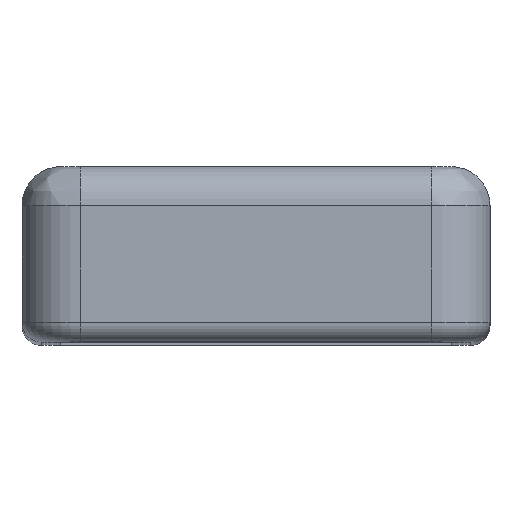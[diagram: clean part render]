
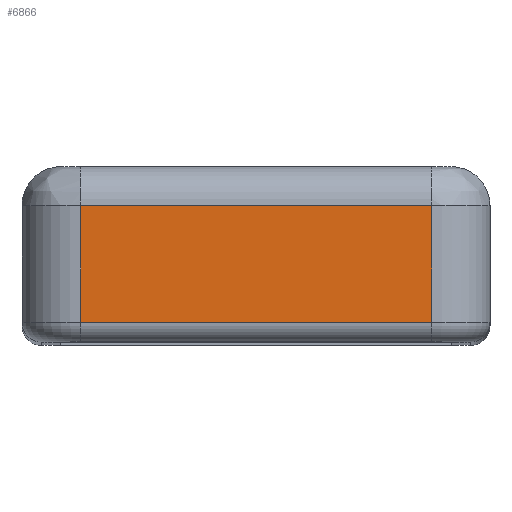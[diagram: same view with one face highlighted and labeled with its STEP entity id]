
A CAD part, top view. The second image highlights one B-rep face of the part: STEP entity #6866.
In plain terms, the highlighted planar face has unit normal (0, 0, 1).
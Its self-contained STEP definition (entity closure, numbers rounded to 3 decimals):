
#290=PLANE('',#7399);
#483=FACE_OUTER_BOUND('',#930,.T.);
#930=EDGE_LOOP('',(#4754,#4755,#4756,#4757));
#1432=LINE('',#10657,#2047);
#1435=LINE('',#10714,#2050);
#1438=LINE('',#10718,#2053);
#1452=LINE('',#10765,#2067);
#2047=VECTOR('',#8316,10.);
#2050=VECTOR('',#8359,10.);
#2053=VECTOR('',#8364,10.);
#2067=VECTOR('',#8410,10.);
#2946=VERTEX_POINT('',#10641);
#2948=VERTEX_POINT('',#10647);
#2956=VERTEX_POINT('',#10684);
#2966=VERTEX_POINT('',#10708);
#3593=EDGE_CURVE('',#2948,#2946,#1432,.T.);
#3612=EDGE_CURVE('',#2956,#2966,#1435,.T.);
#3615=EDGE_CURVE('',#2966,#2948,#1438,.T.);
#3637=EDGE_CURVE('',#2946,#2956,#1452,.T.);
#4754=ORIENTED_EDGE('',*,*,#3612,.F.);
#4755=ORIENTED_EDGE('',*,*,#3637,.F.);
#4756=ORIENTED_EDGE('',*,*,#3593,.F.);
#4757=ORIENTED_EDGE('',*,*,#3615,.F.);
#6866=ADVANCED_FACE('',(#483),#290,.T.);
#7399=AXIS2_PLACEMENT_3D('',#10770,#8417,#8418);
#8316=DIRECTION('',(0.,1.,0.));
#8359=DIRECTION('',(0.,-1.,0.));
#8364=DIRECTION('',(-1.,0.,0.));
#8410=DIRECTION('',(1.,0.,0.));
#8417=DIRECTION('center_axis',(0.,0.,
1.));
#8418=DIRECTION('ref_axis',(-1.,0.,0.));
#10641=CARTESIAN_POINT('',(-66.297,232.,84.));
#10647=CARTESIAN_POINT('',(-66.297,226.,84.));
#10657=CARTESIAN_POINT('',(-66.297,232.,84.));
#10684=CARTESIAN_POINT('',(-48.297,232.,84.));
#10708=CARTESIAN_POINT('',(-48.297,226.,84.));
#10714=CARTESIAN_POINT('',(-48.297,232.,84.));
#10718=CARTESIAN_POINT('',(-51.297,226.,84.));
#10765=CARTESIAN_POINT('',(-51.297,232.,84.));
#10770=CARTESIAN_POINT('Origin',(-45.297,232.,84.));
